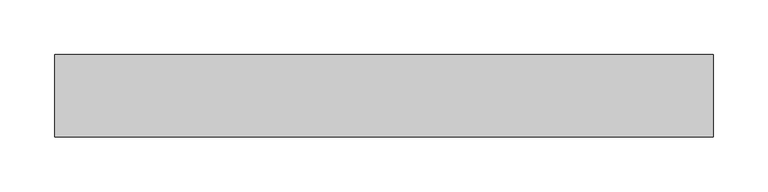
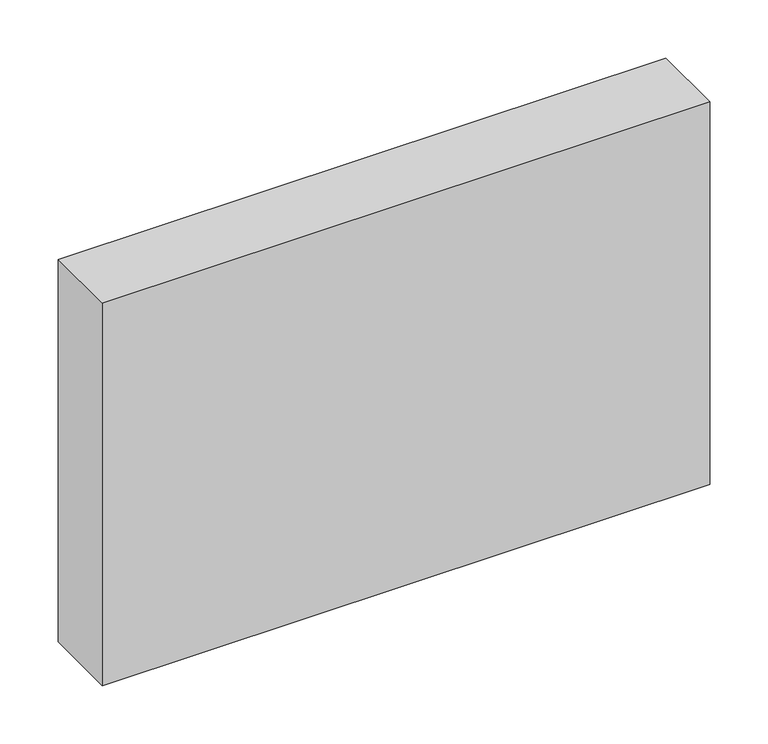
"""IFC4 building model written with IfcOpenShell, lengths in millimetres: proxy geometry, Módulo de Vedação de Concreto Celular - Celucon : MVCC 07,5x40x60cm (L x A x C)."""

from ifc_helpers import new_model, si_unit, origin, origin_with_axes, place, context, project, spatial, polyline, outline, extrude, source, transform, mapped, element, save


def generic_models_f29e977d(model_context):
    return source(origin(), model_context, "Body", "SweptSolid", [
        extrude(outline(polyline([(300.0, 37.5), (300.0, -37.5), (-300.0, -37.5), (-300.0, 37.5), (300.0, 37.5)])), origin_with_axes(), (0.0, 0.0, 1.0), 400.0),
    ])


if __name__ == "__main__":
    model = new_model("IFC4")
    model_context = context("Model", 3, world=origin())
    ifc_project = project(units=[si_unit("LENGTHUNIT", "METRE", prefix="MILLI")], contexts=[model_context])
    site = spatial("IfcSite", under=ifc_project)
    building = spatial("IfcBuilding", under=site)
    placement = place(None, origin())
    generic_models_shape = generic_models_f29e977d(model_context)
    element("IfcBuildingElementProxy", 1, Name="Módulo de Vedação de Concreto Celular - Celucon : MVCC 07,5x40x60cm (L x A x C)", ObjectType="Módulo de Vedação de Concreto Celular - Celucon : MVCC 07,5x40x60cm (L x A x C)", at=placement, inside=building, context=model_context, shape_type="MappedRepresentation", body=[
        mapped(generic_models_shape, transform((0.0, 0.0, 0.0), x_axis=(1.0, 0.0, 0.0), y_axis=(0.0, 1.0, 0.0), z_axis=(0.0, 0.0, 1.0))),
    ])
    save(model, "model.ifc")
